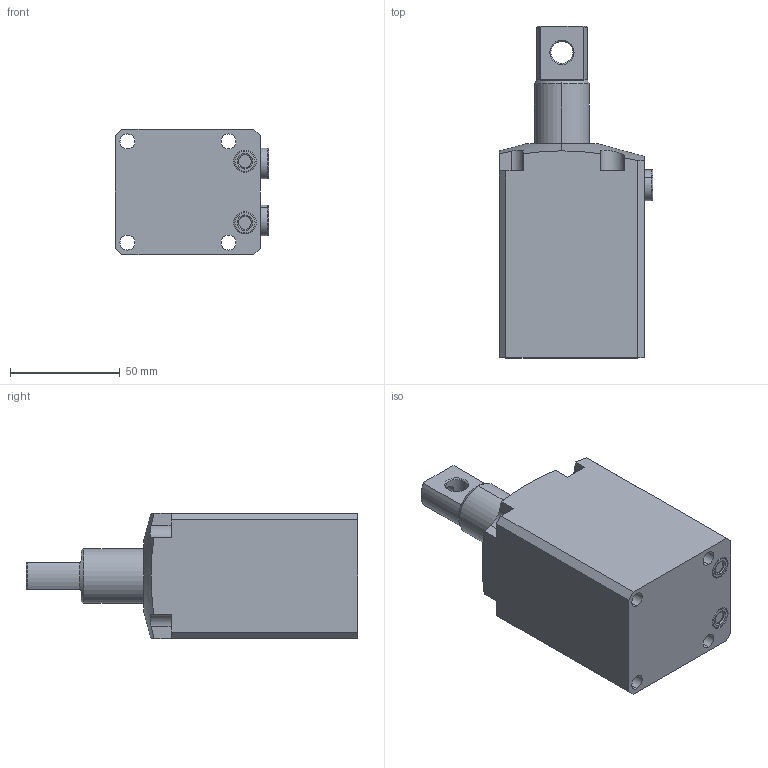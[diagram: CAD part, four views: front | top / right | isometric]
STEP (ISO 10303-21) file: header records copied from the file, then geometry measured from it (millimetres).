
FILE_DESCRIPTION(/* description */ (''),/* implementation_level */ '2;1');
FILE_NAME(/* name */ 'BRC06-P.stp',/* time_stamp */ '2025-01-05T09:10:08+08:00',/* author */ (''),/* organization */ (''),/* preprocessor_version */ 'ST-DEVELOPER v16.7',/* originating_system */ 'SIEMENS PLM Software NX 12.0',/* authorisation */ '');
FILE_SCHEMA (('AUTOMOTIVE_DESIGN { 1 0 10303 214 3 1 1 1 }'));
Length unit declared in the file: millimetre
Products named in the file (4): BRC06-P-03; BRC06-P-02; BRC06-P-01; BRC06-RP_stp
Assembly tree (4 placements, depth 2):
  BRC06-RP_stp
    BRC06-P-01
    BRC06-P-02
    BRC06-P-03  x2
Bounding box: 69.8 x 151 x 57 mm (x, y, z)
Volume: 348840.5 mm3; surface area: 46481.6 mm2
Topology: 6 solids, 6 shells, 148 faces, 341 edges, 214 vertices
Faces by surface type: plane 57, cylinder 51, torus 20, cone 20
Full cylindrical faces by diameter (mm): 8.5 x2
Entity records: 3915 total; most frequent: CARTESIAN_POINT 851, DIRECTION 649, ORIENTED_EDGE 586, EDGE_CURVE 293, AXIS2_PLACEMENT_3D 262, VERTEX_POINT 186, EDGE_LOOP 151, CIRCLE 131
